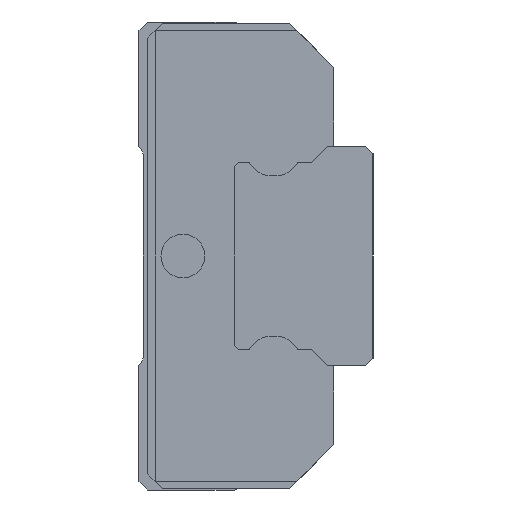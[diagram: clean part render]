
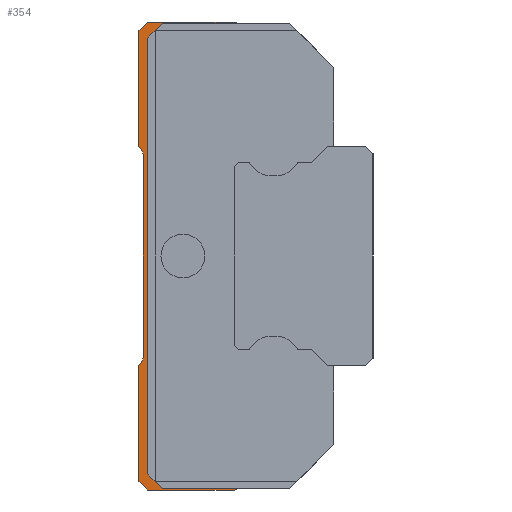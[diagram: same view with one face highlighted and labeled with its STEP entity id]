
A CAD part, left-side view. The second image highlights one B-rep face of the part: STEP entity #354.
In plain terms, the highlighted planar face has unit normal (-1, 0, 0).
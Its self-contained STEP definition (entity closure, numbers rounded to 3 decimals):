
#354 = ADVANCED_FACE( '', ( #912 ), #913, .F. );
#912 = FACE_OUTER_BOUND( '', #1491, .T. );
#913 = PLANE( '', #1492 );
#1491 = EDGE_LOOP( '', ( #3351, #3352, #3353, #3354, #3355, #3356, #3357, #3358, #3359, #3360, #3361, #3362, #3363, #3364, #3365, #3366, #3367, #3368 ) );
#1492 = AXIS2_PLACEMENT_3D( '', #3369, #3370, #3371 );
#3351 = ORIENTED_EDGE( '', *, *, #3971, .T. );
#3352 = ORIENTED_EDGE( '', *, *, #4005, .T. );
#3353 = ORIENTED_EDGE( '', *, *, #4001, .T. );
#3354 = ORIENTED_EDGE( '', *, *, #3936, .T. );
#3355 = ORIENTED_EDGE( '', *, *, #3947, .T. );
#3356 = ORIENTED_EDGE( '', *, *, #4092, .F. );
#3357 = ORIENTED_EDGE( '', *, *, #4093, .F. );
#3358 = ORIENTED_EDGE( '', *, *, #4094, .F. );
#3359 = ORIENTED_EDGE( '', *, *, #4095, .F. );
#3360 = ORIENTED_EDGE( '', *, *, #4096, .F. );
#3361 = ORIENTED_EDGE( '', *, *, #4097, .F. );
#3362 = ORIENTED_EDGE( '', *, *, #4098, .F. );
#3363 = ORIENTED_EDGE( '', *, *, #4099, .F. );
#3364 = ORIENTED_EDGE( '', *, *, #4100, .F. );
#3365 = ORIENTED_EDGE( '', *, *, #4101, .F. );
#3366 = ORIENTED_EDGE( '', *, *, #4102, .F. );
#3367 = ORIENTED_EDGE( '', *, *, #4103, .F. );
#3368 = ORIENTED_EDGE( '', *, *, #4104, .F. );
#3369 = CARTESIAN_POINT( '', ( 458.25, 2.7, 0. ) );
#3370 = DIRECTION( '', ( 1., 0., 0. ) );
#3371 = DIRECTION( '', ( 0., 0., -1. ) );
#3936 = EDGE_CURVE( '', #4841, #4839, #4842, .T. );
#3947 = EDGE_CURVE( '', #4839, #4859, #4861, .T. );
#3971 = EDGE_CURVE( '', #4903, #4901, #4904, .T. );
#4001 = EDGE_CURVE( '', #4952, #4841, #4953, .T. );
#4005 = EDGE_CURVE( '', #4901, #4952, #4958, .T. );
#4092 = EDGE_CURVE( '', #5090, #4859, #5091, .T. );
#4093 = EDGE_CURVE( '', #5092, #5090, #5093, .T. );
#4094 = EDGE_CURVE( '', #5094, #5092, #5095, .T. );
#4095 = EDGE_CURVE( '', #5096, #5094, #5097, .T. );
#4096 = EDGE_CURVE( '', #5098, #5096, #5099, .T. );
#4097 = EDGE_CURVE( '', #5100, #5098, #5101, .T. );
#4098 = EDGE_CURVE( '', #5102, #5100, #5103, .T. );
#4099 = EDGE_CURVE( '', #5104, #5102, #5105, .T. );
#4100 = EDGE_CURVE( '', #5106, #5104, #5107, .T. );
#4101 = EDGE_CURVE( '', #5108, #5106, #5109, .T. );
#4102 = EDGE_CURVE( '', #5110, #5108, #5111, .T. );
#4103 = EDGE_CURVE( '', #5112, #5110, #5113, .T. );
#4104 = EDGE_CURVE( '', #4903, #5112, #5114, .T. );
#4839 = VERTEX_POINT( '', #6046 );
#4841 = VERTEX_POINT( '', #6049 );
#4842 = LINE( '', #6050, #6051 );
#4859 = VERTEX_POINT( '', #6077 );
#4861 = LINE( '', #6080, #6081 );
#4901 = VERTEX_POINT( '', #6143 );
#4903 = VERTEX_POINT( '', #6146 );
#4904 = LINE( '', #6147, #6148 );
#4952 = VERTEX_POINT( '', #6225 );
#4953 = LINE( '', #6226, #6227 );
#4958 = LINE( '', #6235, #6236 );
#5090 = VERTEX_POINT( '', #6426 );
#5091 = LINE( '', #6427, #6428 );
#5092 = VERTEX_POINT( '', #6429 );
#5093 = LINE( '', #6430, #6431 );
#5094 = VERTEX_POINT( '', #6432 );
#5095 = LINE( '', #6433, #6434 );
#5096 = VERTEX_POINT( '', #6435 );
#5097 = LINE( '', #6436, #6437 );
#5098 = VERTEX_POINT( '', #6438 );
#5099 = LINE( '', #6439, #6440 );
#5100 = VERTEX_POINT( '', #6441 );
#5101 = CIRCLE( '', #6442, 0.5 );
#5102 = VERTEX_POINT( '', #6443 );
#5103 = LINE( '', #6444, #6445 );
#5104 = VERTEX_POINT( '', #6446 );
#5105 = CIRCLE( '', #6447, 0.5 );
#5106 = VERTEX_POINT( '', #6448 );
#5107 = LINE( '', #6449, #6450 );
#5108 = VERTEX_POINT( '', #6451 );
#5109 = LINE( '', #6452, #6453 );
#5110 = VERTEX_POINT( '', #6454 );
#5111 = LINE( '', #6455, #6456 );
#5112 = VERTEX_POINT( '', #6457 );
#5113 = LINE( '', #6458, #6459 );
#5114 = LINE( '', #6460, #6461 );
#6046 = CARTESIAN_POINT( '', ( 458.25, 14.4, 15.9 ) );
#6049 = CARTESIAN_POINT( '', ( 458.25, 15.4, 14.9 ) );
#6050 = CARTESIAN_POINT( '', ( 458.25, 15.95, 14.35 ) );
#6051 = VECTOR( '', #7420, 1. );
#6077 = CARTESIAN_POINT( '', ( 458.25, 9.28, 15.9 ) );
#6080 = CARTESIAN_POINT( '', ( 458.25, 8.55, 15.9 ) );
#6081 = VECTOR( '', #7431, 1. );
#6143 = CARTESIAN_POINT( '', ( 458.25, 14.4, -15.9 ) );
#6146 = CARTESIAN_POINT( '', ( 458.25, 9.28, -15.9 ) );
#6147 = CARTESIAN_POINT( '', ( 458.25, 4.2, -15.9 ) );
#6148 = VECTOR( '', #7455, 1. );
#6225 = CARTESIAN_POINT( '', ( 458.25, 15.4, -14.9 ) );
#6226 = CARTESIAN_POINT( '', ( 458.25, 15.4, -7.45 ) );
#6227 = VECTOR( '', #7485, 1. );
#6235 = CARTESIAN_POINT( '', ( 458.25, 15.45, -14.85 ) );
#6236 = VECTOR( '', #7489, 1. );
#6426 = CARTESIAN_POINT( '', ( 458.25, 9.5, 16. ) );
#6427 = CARTESIAN_POINT( '', ( 458.25, 9.5, 16. ) );
#6428 = VECTOR( '', #7632, 1. );
#6429 = CARTESIAN_POINT( '', ( 458.25, 15.4, 16. ) );
#6430 = CARTESIAN_POINT( '', ( 458.25, 15.4, 16. ) );
#6431 = VECTOR( '', #7633, 1. );
#6432 = CARTESIAN_POINT( '', ( 458.25, 16., 15.4 ) );
#6433 = CARTESIAN_POINT( '', ( 458.25, 16., 15.4 ) );
#6434 = VECTOR( '', #7634, 1. );
#6435 = CARTESIAN_POINT( '', ( 458.25, 16., 7.5 ) );
#6436 = CARTESIAN_POINT( '', ( 458.25, 16., 7.5 ) );
#6437 = VECTOR( '', #7635, 1. );
#6438 = CARTESIAN_POINT( '', ( 458.25, 15.771, 7.119 ) );
#6439 = CARTESIAN_POINT( '', ( 458.25, 15.771, 7.119 ) );
#6440 = VECTOR( '', #7636, 1. );
#6441 = CARTESIAN_POINT( '', ( 458.25, 15.7, 6.862 ) );
#6442 = AXIS2_PLACEMENT_3D( '', #7637, #7638, #7639 );
#6443 = CARTESIAN_POINT( '', ( 458.25, 15.7, -6.862 ) );
#6444 = CARTESIAN_POINT( '', ( 458.25, 15.7, -6.862 ) );
#6445 = VECTOR( '', #7640, 1. );
#6446 = CARTESIAN_POINT( '', ( 458.25, 15.771, -7.119 ) );
#6447 = AXIS2_PLACEMENT_3D( '', #7641, #7642, #7643 );
#6448 = CARTESIAN_POINT( '', ( 458.25, 16., -7.5 ) );
#6449 = CARTESIAN_POINT( '', ( 458.25, 16., -7.5 ) );
#6450 = VECTOR( '', #7644, 1. );
#6451 = CARTESIAN_POINT( '', ( 458.25, 16., -15.4 ) );
#6452 = CARTESIAN_POINT( '', ( 458.25, 16., -15.4 ) );
#6453 = VECTOR( '', #7645, 1. );
#6454 = CARTESIAN_POINT( '', ( 458.25, 15.4, -16. ) );
#6455 = CARTESIAN_POINT( '', ( 458.25, 15.4, -16. ) );
#6456 = VECTOR( '', #7646, 1. );
#6457 = CARTESIAN_POINT( '', ( 458.25, 9.5, -16. ) );
#6458 = CARTESIAN_POINT( '', ( 458.25, 9.5, -16. ) );
#6459 = VECTOR( '', #7647, 1. );
#6460 = CARTESIAN_POINT( '', ( 458.25, 9.28, -15.9 ) );
#6461 = VECTOR( '', #7648, 1. );
#7420 = DIRECTION( '', ( 0., -0.707, 0.707 ) );
#7431 = DIRECTION( '', ( 0., -1., 0. ) );
#7455 = DIRECTION( '', ( 0., 1., 0. ) );
#7485 = DIRECTION( '', ( 0., 0., 1. ) );
#7489 = DIRECTION( '', ( 0., 0.707, 0.707 ) );
#7632 = DIRECTION( '', ( 0., -0.91, -0.414 ) );
#7633 = DIRECTION( '', ( 0., -1., 0. ) );
#7634 = DIRECTION( '', ( 0., -0.707, 0.707 ) );
#7635 = DIRECTION( '', ( 0., 0., 1. ) );
#7636 = DIRECTION( '', ( 0., 0.514, 0.857 ) );
#7637 = CARTESIAN_POINT( '', ( 458.25, 16.2, 6.862 ) );
#7638 = DIRECTION( '', ( -1., 0., 0. ) );
#7639 = DIRECTION( '', ( 0., -1., 0. ) );
#7640 = DIRECTION( '', ( 0., 0., 1. ) );
#7641 = CARTESIAN_POINT( '', ( 458.25, 16.2, -6.862 ) );
#7642 = DIRECTION( '', ( -1., 0., 0. ) );
#7643 = DIRECTION( '', ( 0., -0.857, -0.514 ) );
#7644 = DIRECTION( '', ( 0., -0.514, 0.857 ) );
#7645 = DIRECTION( '', ( 0., 0., 1. ) );
#7646 = DIRECTION( '', ( 0., 0.707, 0.707 ) );
#7647 = DIRECTION( '', ( 0., 1., 0. ) );
#7648 = DIRECTION( '', ( 0., 0.91, -0.414 ) );
